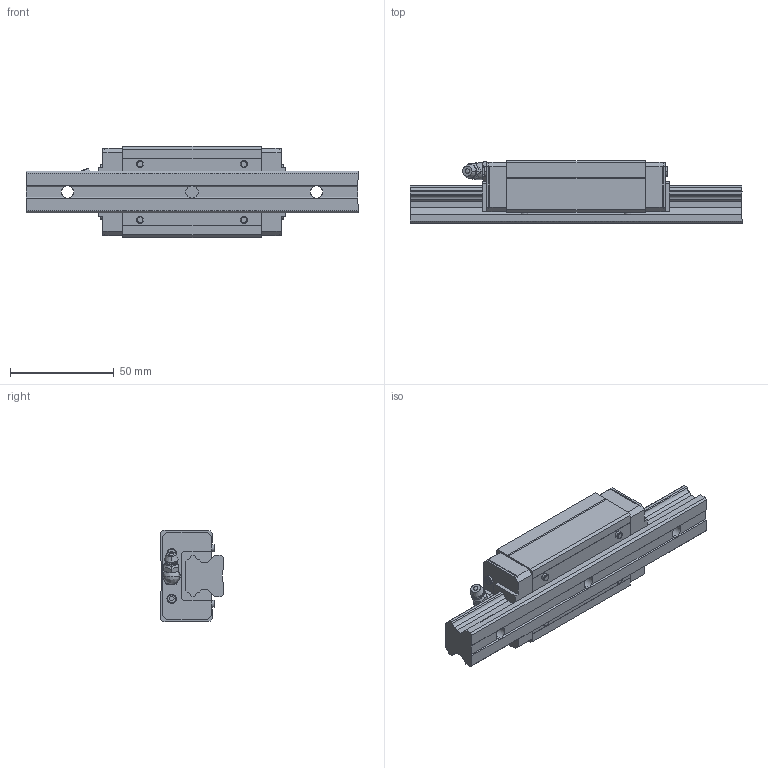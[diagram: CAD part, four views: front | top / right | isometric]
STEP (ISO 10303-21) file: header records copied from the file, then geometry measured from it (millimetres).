
FILE_DESCRIPTION (( 'STEP AP203' ), '1' );
FILE_NAME ('HSR20LRSSC.STEP', '2016-03-29T11:23:43', ( 'EOS' ), ( '' ), 'SwSTEP 2.0', 'SolidWorks 2016', '' );
FILE_SCHEMA (( 'CONFIG_CONTROL_DESIGN' ));
Length unit declared in the file: millimetre
Products named in the file (4): 1; 2_1; HSR20LRSSC; 3
Assembly tree (3 placements, depth 2):
  HSR20LRSSC
    1
    2_1
    3
Bounding box: 160 x 30 x 44 mm (x, y, z)
Volume: 118463.1 mm3; surface area: 31811 mm2
Topology: 2 solids, 3 shells, 300 faces, 779 edges, 490 vertices
Faces by surface type: plane 188, cylinder 52, cone 36, bspline 24
Entity records: 9854 total; most frequent: CARTESIAN_POINT 2304, ORIENTED_EDGE 1525, DIRECTION 1428, EDGE_CURVE 764, LINE 534, VECTOR 534, VERTEX_POINT 490, AXIS2_PLACEMENT_3D 447
